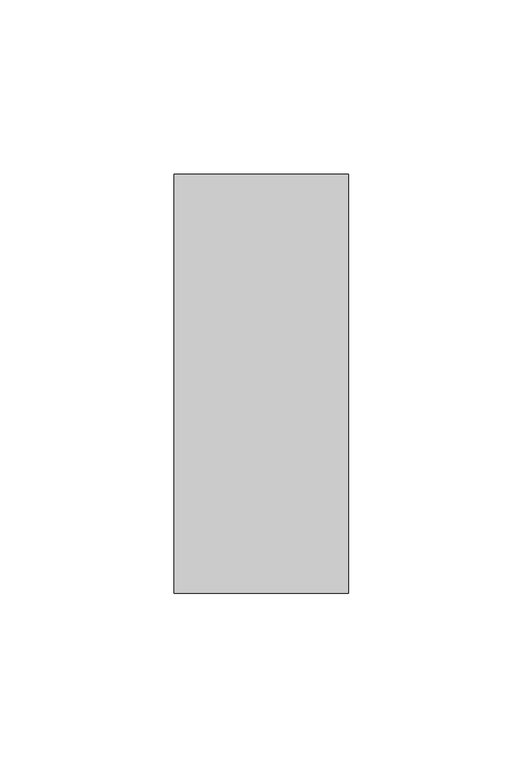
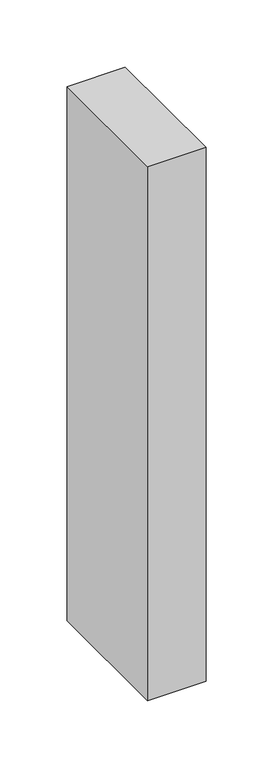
"""IFC4 building model written with IfcOpenShell, lengths in millimetres: member geometry, Прямоугольный импост : 50х120 мм."""

from ifc_helpers import new_model, si_unit, frame, origin, place, context, project, spatial, polyline, outline, extrude, source, transform, mapped, element, save


def member_b2f30559(model_context):
    return source(origin(), model_context, "Body", "SweptSolid", [
        extrude(outline(polyline([(0.0, 60.0), (0.0, -60.0), (-50.0, -60.0), (-50.0, 60.0), (0.0, 60.0)])), frame((0.0, 0.0, -485.0), z_axis=(0.0, 0.0, 1.0), x_axis=(1.0, 0.0, 0.0)), (0.0, 0.0, 1.0), 485.0),
    ])


if __name__ == "__main__":
    model = new_model("IFC4")
    model_context = context("Model", 3, world=origin())
    ifc_project = project(units=[si_unit("LENGTHUNIT", "METRE", prefix="MILLI")], contexts=[model_context])
    site = spatial("IfcSite", under=ifc_project)
    building = spatial("IfcBuilding", under=site)
    placement = place(None, origin())
    member_shape = member_b2f30559(model_context)
    element("IfcMember", 1, ObjectType="Прямоугольный импост : 50х120 мм", at=placement, inside=building, context=model_context, shape_type="MappedRepresentation", body=[
        mapped(member_shape, transform((0.0, 0.0, 0.0), x_axis=(1.0, 0.0, 0.0), y_axis=(0.0, 1.0, 0.0), z_axis=(0.0, 0.0, 1.0))),
    ])
    save(model, "model.ifc")
